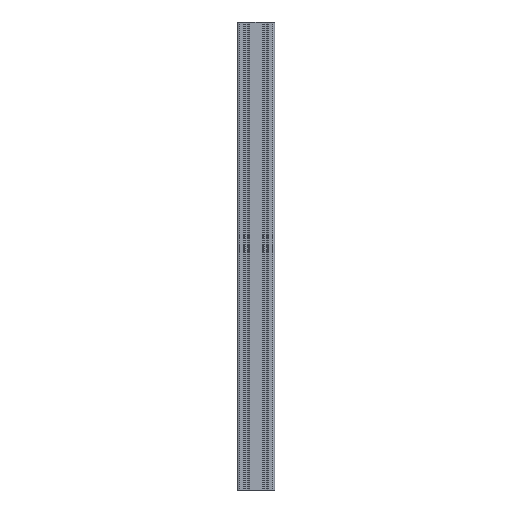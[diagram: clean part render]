
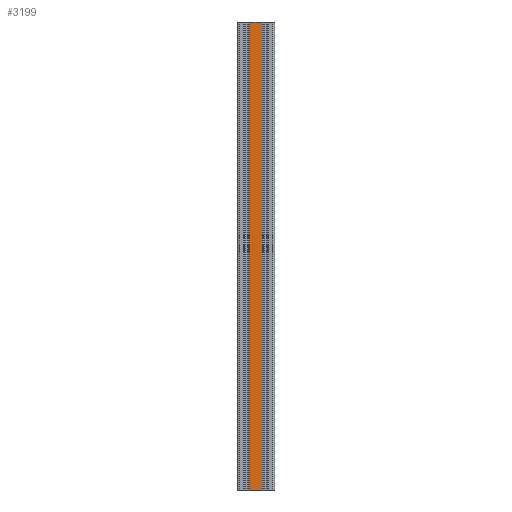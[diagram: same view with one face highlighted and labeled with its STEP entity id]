
A CAD part, front view. The second image highlights one B-rep face of the part: STEP entity #3199.
In plain terms, the highlighted planar face has unit normal (0, -1, 0).
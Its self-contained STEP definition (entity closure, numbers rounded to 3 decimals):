
#148 = VERTEX_POINT ( 'NONE', #430 ) ;
#226 = VERTEX_POINT ( 'NONE', #271 ) ;
#271 = CARTESIAN_POINT ( 'NONE',  ( 6.7, -20., 250. ) ) ;
#405 = AXIS2_PLACEMENT_3D ( 'NONE', #1480, #3983, #5938 ) ;
#430 = CARTESIAN_POINT ( 'NONE',  ( 6.7, -20., -250. ) ) ;
#495 = CARTESIAN_POINT ( 'NONE',  ( -20., -20., -250. ) ) ;
#948 = EDGE_CURVE ( 'NONE', #1493, #2162, #4599, .T. ) ;
#951 = LINE ( 'NONE', #4221, #4314 ) ;
#1082 = PLANE ( 'NONE',  #405 ) ;
#1480 = CARTESIAN_POINT ( 'NONE',  ( -20., -20., -306.569 ) ) ;
#1492 = LINE ( 'NONE', #3913, #2142 ) ;
#1493 = VERTEX_POINT ( 'NONE', #4289 ) ;
#1639 = ORIENTED_EDGE ( 'NONE', *, *, #948, .F. ) ;
#1726 = EDGE_LOOP ( 'NONE', ( #4577, #3573, #2220, #1639 ) ) ;
#1911 = DIRECTION ( 'NONE',  ( -1., 0., 0. ) ) ;
#1966 = DIRECTION ( 'NONE',  ( 1., 0., 0. ) ) ;
#2005 = VECTOR ( 'NONE', #3278, 1000. ) ;
#2142 = VECTOR ( 'NONE', #1966, 1000. ) ;
#2162 = VERTEX_POINT ( 'NONE', #3517 ) ;
#2220 = ORIENTED_EDGE ( 'NONE', *, *, #3785, .F. ) ;
#2226 = DIRECTION ( 'NONE',  ( 0., 0., 1. ) ) ;
#2278 = CARTESIAN_POINT ( 'NONE',  ( -6.7, -20., -250. ) ) ;
#3199 = ADVANCED_FACE ( 'NONE', ( #3544 ), #1082, .T. ) ;
#3278 = DIRECTION ( 'NONE',  ( 0., 0., 1. ) ) ;
#3517 = CARTESIAN_POINT ( 'NONE',  ( -6.7, -20., 250. ) ) ;
#3544 = FACE_OUTER_BOUND ( 'NONE', #1726, .T. ) ;
#3573 = ORIENTED_EDGE ( 'NONE', *, *, #3648, .T. ) ;
#3648 = EDGE_CURVE ( 'NONE', #148, #226, #951, .T. ) ;
#3785 = EDGE_CURVE ( 'NONE', #2162, #226, #1492, .T. ) ;
#3913 = CARTESIAN_POINT ( 'NONE',  ( -20., -20., 250. ) ) ;
#3983 = DIRECTION ( 'NONE',  ( 0., -1., 0. ) ) ;
#4221 = CARTESIAN_POINT ( 'NONE',  ( 6.7, -20., -250. ) ) ;
#4289 = CARTESIAN_POINT ( 'NONE',  ( -6.7, -20., -250. ) ) ;
#4314 = VECTOR ( 'NONE', #2226, 1000. ) ;
#4573 = EDGE_CURVE ( 'NONE', #148, #1493, #5205, .T. ) ;
#4577 = ORIENTED_EDGE ( 'NONE', *, *, #4573, .F. ) ;
#4599 = LINE ( 'NONE', #2278, #2005 ) ;
#5205 = LINE ( 'NONE', #495, #5521 ) ;
#5521 = VECTOR ( 'NONE', #1911, 1000. ) ;
#5938 = DIRECTION ( 'NONE',  ( 1., 0., 0. ) ) ;
